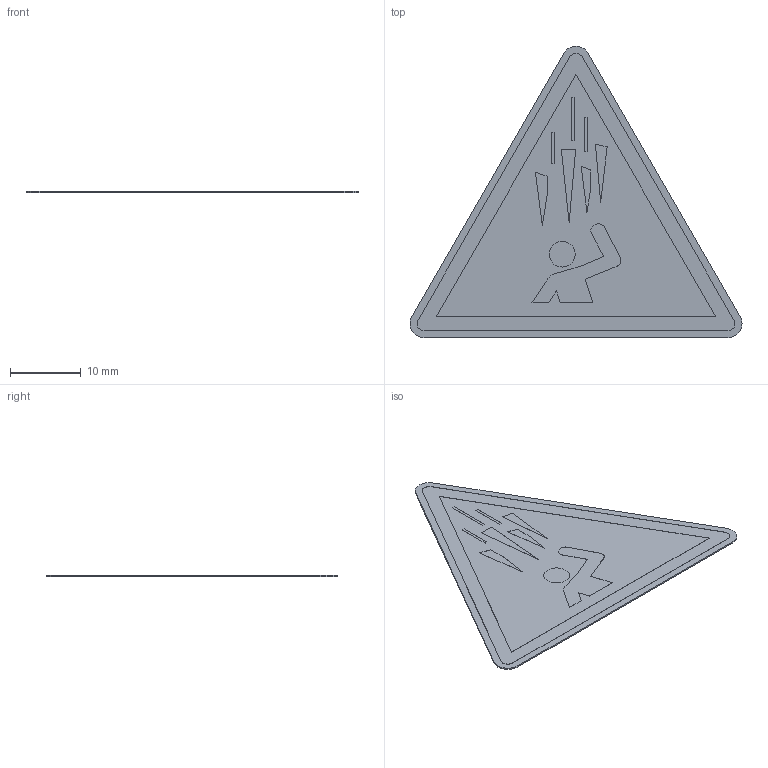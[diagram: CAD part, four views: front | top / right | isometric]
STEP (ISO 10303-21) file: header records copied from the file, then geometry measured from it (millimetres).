
FILE_DESCRIPTION (( 'STEP AP214' ), '1' );
FILE_NAME ('W039_Warnung vor Eisschlag.STEP', '2022-02-22T08:25:43', ( '' ), ( '' ), 'SwSTEP 2.0', 'SolidWorks 2021', '' );
FILE_SCHEMA (( 'AUTOMOTIVE_DESIGN' ));
Length unit declared in the file: millimetre
Products named in the file (1): W039_Warnung vor Eisschlag
Bounding box: 47.07 x 41.3 x 0.22 mm (x, y, z)
Volume: 220.9 mm3; surface area: 2183.7 mm2
Topology: 1 solids, 1 shells, 74 faces, 183 edges, 122 vertices
Faces by surface type: plane 60, cylinder 13, bspline 1
Entity records: 2929 total; most frequent: CARTESIAN_POINT 405, ORIENTED_EDGE 366, DIRECTION 355, EDGE_CURVE 183, LINE 155, VECTOR 155, VERTEX_POINT 122, AXIS2_PLACEMENT_3D 100
